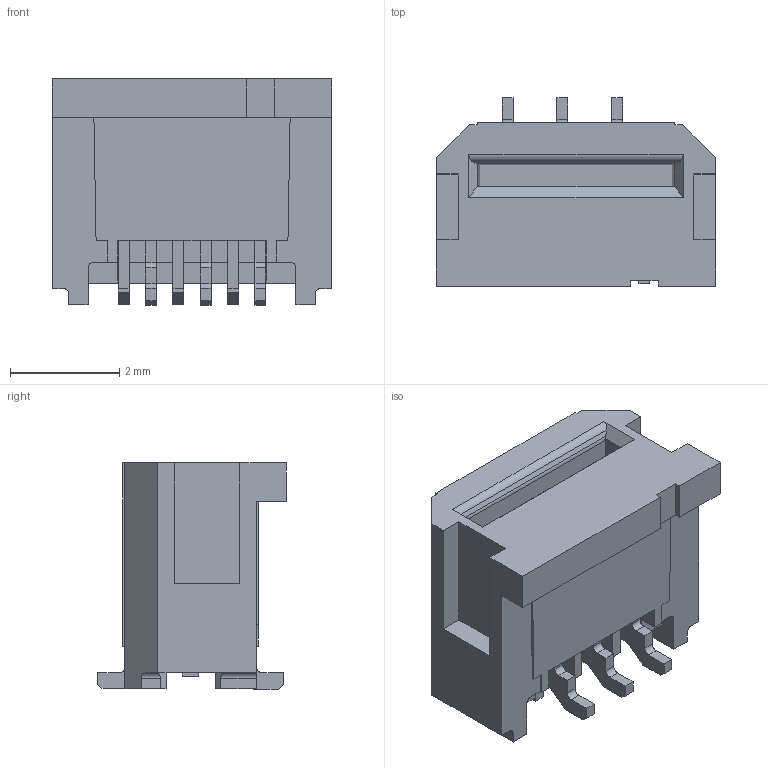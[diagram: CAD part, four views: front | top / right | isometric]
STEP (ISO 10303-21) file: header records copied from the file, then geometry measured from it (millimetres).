
FILE_DESCRIPTION(('CATIA V5 STEP Exchange'),'2;1');
FILE_NAME('C:\Users\user\Desktop\作業中 0601分\差し替えデータ\00_6244_006_010_xxx_+.stp','2015-06-02T06:18:53+00:00',('none'),('none'),'CATIA Version 5 Release 19 SP 9 (IN-10)','CATIA V5 STEP AP214','none');
FILE_SCHEMA(('AUTOMOTIVE_DESIGN { 1 0 10303 214 1 1 1 1 }'));
Length unit declared in the file: millimetre
Products named in the file (1): Part1
Bounding box: 5.1 x 3.45 x 4.13 mm (x, y, z)
Volume: 39.4 mm3; surface area: 135.5 mm2
Topology: 1 solids, 1 shells, 261 faces, 827 edges, 569 vertices
Faces by surface type: plane 239, cylinder 22
Entity records: 8458 total; most frequent: ORIENTED_EDGE 1654, CARTESIAN_POINT 1645, DIRECTION 1061, EDGE_CURVE 827, VECTOR 769, LINE 769, VERTEX_POINT 569, EDGE_LOOP 262
